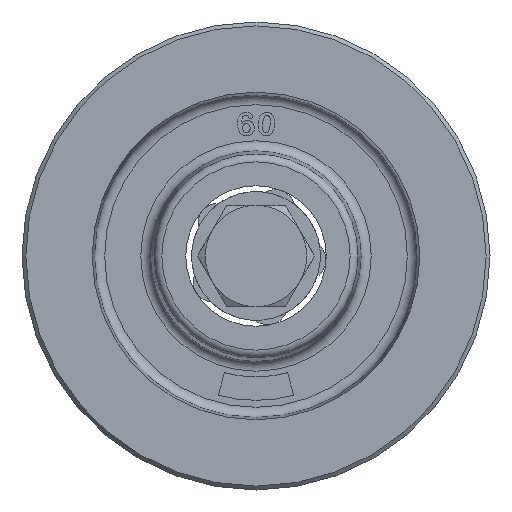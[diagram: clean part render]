
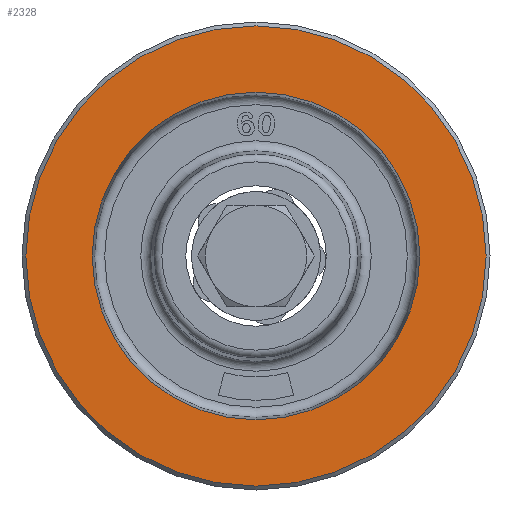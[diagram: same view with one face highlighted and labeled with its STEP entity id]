
A CAD part, left-side view. The second image highlights one B-rep face of the part: STEP entity #2328.
In plain terms, the highlighted planar face has unit normal (-1, 0, 0) as drawn and (1, 0, 0) by its records, which use the part's own axes.
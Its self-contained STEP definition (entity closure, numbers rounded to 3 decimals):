
#187=CIRCLE('',#2612,21.);
#205=CIRCLE('',#2641,29.5);
#323=FACE_BOUND('',#607,.T.);
#358=PLANE('',#2640);
#449=FACE_OUTER_BOUND('',#606,.T.);
#606=EDGE_LOOP('',(#1824));
#607=EDGE_LOOP('',(#1825));
#1089=VERTEX_POINT('',#4156);
#1103=VERTEX_POINT('',#4203);
#1341=EDGE_CURVE('',#1089,#1089,#187,.T.);
#1362=EDGE_CURVE('',#1103,#1103,#205,.T.);
#1824=ORIENTED_EDGE('',*,*,#1362,.F.);
#1825=ORIENTED_EDGE('',*,*,#1341,.T.);
#2328=ADVANCED_FACE('',(#449,#323),#358,.T.);
#2612=AXIS2_PLACEMENT_3D('',#4158,#2960,#2961);
#2640=AXIS2_PLACEMENT_3D('',#4202,#3019,#3020);
#2641=AXIS2_PLACEMENT_3D('',#4204,#3021,#3022);
#2960=DIRECTION('center_axis',(-1.,0.,0.));
#2961=DIRECTION('ref_axis',(0.,-1.,0.));
#3019=DIRECTION('center_axis',(1.,0.,0.));
#3020=DIRECTION('ref_axis',(0.,0.,-1.));
#3021=DIRECTION('center_axis',(-1.,0.,0.));
#3022=DIRECTION('ref_axis',(0.,-1.,0.));
#4156=CARTESIAN_POINT('',(8.,21.,0.));
#4158=CARTESIAN_POINT('Origin',(8.,0.,0.));
#4202=CARTESIAN_POINT('Origin',(8.,-25.25,0.));
#4203=CARTESIAN_POINT('',(8.,29.5,0.));
#4204=CARTESIAN_POINT('Origin',(8.,0.,0.));
